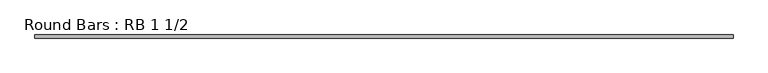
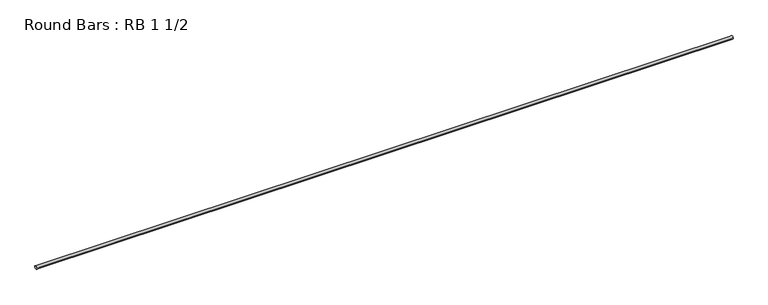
"""IFC4 building model written with IfcOpenShell, lengths in millimetres: member geometry, Round Bars : RB 1 1/2."""

from ifc_helpers import new_model, si_unit, point, frame, origin, origin_2d, place, context, project, spatial, circle_curve, trimmed, segment, composite_curve, outline, extrude, source, transform, mapped, element, save


def round_bars_rb_1_1_2_fa0580b7(model_context):
    return source(origin(), model_context, "Body", "SweptSolid", [
        extrude(outline(composite_curve([segment(trimmed(circle_curve(origin_2d(), 19.05), [point((19.05, 0.0))], [point((-19.05, 0.0))], False, "CARTESIAN"), True, "CONTINUOUS"), segment(trimmed(circle_curve(origin_2d(), 19.05), [point((-19.05, 0.0))], [point((19.05, 0.0))], False, "CARTESIAN"), True, "CONTINUOUS")], self_intersect=False)), frame((-4182.11685, 0.0, 0.0), z_axis=(1.0, 0.0, 0.0), x_axis=(0.0, 1.0, 0.0)), (0.0, 0.0, 1.0), 8419.8689614),
    ])


if __name__ == "__main__":
    model = new_model("IFC4")
    model_context = context("Model", 3, world=origin())
    ifc_project = project(units=[si_unit("LENGTHUNIT", "METRE", prefix="MILLI")], contexts=[model_context])
    site = spatial("IfcSite", under=ifc_project)
    building = spatial("IfcBuilding", under=site)
    placement = place(None, origin())
    round_bars_rb_1_1_2_shape = round_bars_rb_1_1_2_fa0580b7(model_context)
    element("IfcMember", 1, ObjectType="Round Bars : RB 1 1/2", at=placement, inside=building, context=model_context, shape_type="MappedRepresentation", body=[
        mapped(round_bars_rb_1_1_2_shape, transform((0.0, 0.0, 0.0), x_axis=(1.0, 0.0, 0.0), y_axis=(0.0, 1.0, 0.0), z_axis=(0.0, 0.0, 1.0))),
    ])
    save(model, "model.ifc")
